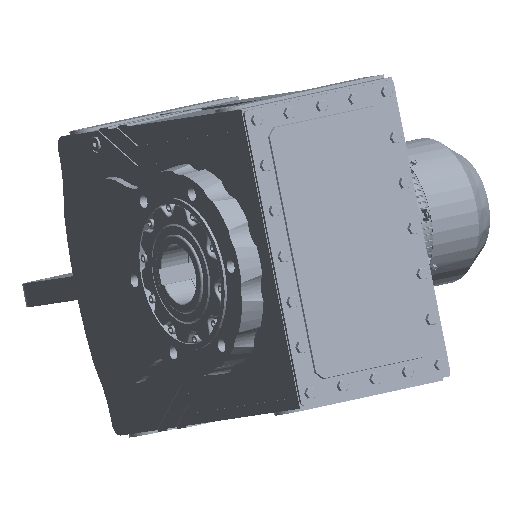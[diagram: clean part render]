
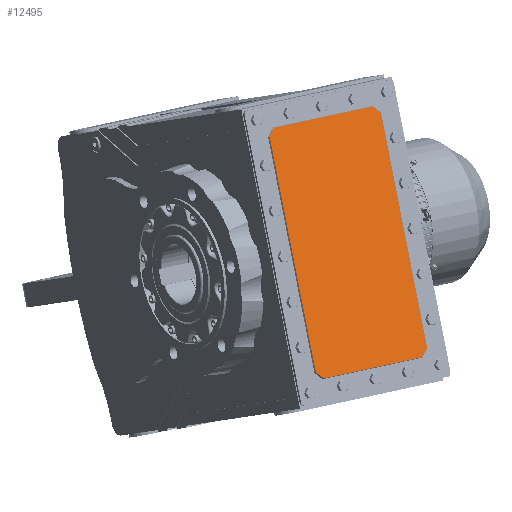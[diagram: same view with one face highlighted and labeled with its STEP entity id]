
A CAD part, isometric view. The second image highlights one B-rep face of the part: STEP entity #12495.
In plain terms, the highlighted planar face has unit normal (-0.068, -0.833, 0.55) as drawn and (0, -1, 0) by its records, which use the part's own axes.
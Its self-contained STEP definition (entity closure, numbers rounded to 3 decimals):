
#1896 = EDGE_LOOP ( 'NONE', ( #298423, #298545, #298532, #298482, #298527, #298371, #298452, #298395 ) ) ;
#12495 = ADVANCED_FACE ( 'NONE', ( #288137 ), #293629, .T. ) ;
#26666 = AXIS2_PLACEMENT_3D ( 'NONE', #293624, #293617, #293639 ) ;
#88282 = DIRECTION ( 'NONE',  ( 0.707, 0., -0.707 ) ) ;
#88292 = CARTESIAN_POINT ( 'NONE',  ( 178.432, -195., -71.318 ) ) ;
#123537 = EDGE_CURVE ( 'NONE', #283986, #283999, #132237, .T. ) ;
#123589 = EDGE_CURVE ( 'NONE', #283941, #283986, #132438, .T. ) ;
#123610 = EDGE_CURVE ( 'NONE', #283909, #283922, #132662, .T. ) ;
#123635 = EDGE_CURVE ( 'NONE', #283999, #283964, #132643, .T. ) ;
#123637 = EDGE_CURVE ( 'NONE', #283964, #283909, #132550, .T. ) ;
#123662 = EDGE_CURVE ( 'NONE', #283922, #283996, #132859, .T. ) ;
#123665 = EDGE_CURVE ( 'NONE', #283996, #284012, #132841, .T. ) ;
#123689 = EDGE_CURVE ( 'NONE', #284012, #283941, #132882, .T. ) ;
#132237 = LINE ( 'NONE', #138468, #132462 ) ;
#132438 = LINE ( 'NONE', #138683, #132445 ) ;
#132445 = VECTOR ( 'NONE', #138669, 1000. ) ;
#132462 = VECTOR ( 'NONE', #138440, 1000. ) ;
#132550 = LINE ( 'NONE', #138882, #132668 ) ;
#132643 = LINE ( 'NONE', #138868, #132647 ) ;
#132647 = VECTOR ( 'NONE', #138907, 1000. ) ;
#132662 = LINE ( 'NONE', #138629, #132713 ) ;
#132668 = VECTOR ( 'NONE', #138862, 1000. ) ;
#132713 = VECTOR ( 'NONE', #138702, 1000. ) ;
#132815 = VECTOR ( 'NONE', #139102, 1000. ) ;
#132841 = LINE ( 'NONE', #139131, #132815 ) ;
#132859 = LINE ( 'NONE', #138998, #132899 ) ;
#132882 = LINE ( 'NONE', #88292, #132965 ) ;
#132899 = VECTOR ( 'NONE', #139123, 1000. ) ;
#132965 = VECTOR ( 'NONE', #88282, 1000. ) ;
#138440 = DIRECTION ( 'NONE',  ( -0.707, 0., -0.707 ) ) ;
#138468 = CARTESIAN_POINT ( 'NONE',  ( 190.432, -195., -262.182 ) ) ;
#138629 = CARTESIAN_POINT ( 'NONE',  ( -190.196, -195., -82.75 ) ) ;
#138669 = DIRECTION ( 'NONE',  ( 0., 0., -1. ) ) ;
#138683 = CARTESIAN_POINT ( 'NONE',  ( 190.196, -195., -82.75 ) ) ;
#138702 = DIRECTION ( 'NONE',  ( 0., 0., 1. ) ) ;
#138862 = DIRECTION ( 'NONE',  ( -0.707, 0., 0.707 ) ) ;
#138868 = CARTESIAN_POINT ( 'NONE',  ( -179., -195., -273.946 ) ) ;
#138882 = CARTESIAN_POINT ( 'NONE',  ( -190.432, -195., -262.182 ) ) ;
#138907 = DIRECTION ( 'NONE',  ( -1., 0., 0. ) ) ;
#138998 = CARTESIAN_POINT ( 'NONE',  ( -178.432, -195., -71.318 ) ) ;
#139102 = DIRECTION ( 'NONE',  ( 1., 0., 0. ) ) ;
#139123 = DIRECTION ( 'NONE',  ( 0.707, 0., 0.707 ) ) ;
#139131 = CARTESIAN_POINT ( 'NONE',  ( -179., -195., -71.554 ) ) ;
#269007 = CARTESIAN_POINT ( 'NONE',  ( -190.196, -195., -83.083 ) ) ;
#269089 = CARTESIAN_POINT ( 'NONE',  ( -190.196, -195., -262.417 ) ) ;
#269252 = CARTESIAN_POINT ( 'NONE',  ( 190.196, -195., -83.083 ) ) ;
#269818 = CARTESIAN_POINT ( 'NONE',  ( -178.667, -195., -273.946 ) ) ;
#270098 = CARTESIAN_POINT ( 'NONE',  ( -178.667, -195., -71.554 ) ) ;
#270107 = CARTESIAN_POINT ( 'NONE',  ( 178.667, -195., -273.946 ) ) ;
#270245 = CARTESIAN_POINT ( 'NONE',  ( 190.196, -195., -262.417 ) ) ;
#270480 = CARTESIAN_POINT ( 'NONE',  ( 178.667, -195., -71.554 ) ) ;
#283909 = VERTEX_POINT ( 'NONE', #269089 ) ;
#283922 = VERTEX_POINT ( 'NONE', #269007 ) ;
#283941 = VERTEX_POINT ( 'NONE', #269252 ) ;
#283964 = VERTEX_POINT ( 'NONE', #269818 ) ;
#283986 = VERTEX_POINT ( 'NONE', #270245 ) ;
#283996 = VERTEX_POINT ( 'NONE', #270098 ) ;
#283999 = VERTEX_POINT ( 'NONE', #270107 ) ;
#284012 = VERTEX_POINT ( 'NONE', #270480 ) ;
#288137 = FACE_OUTER_BOUND ( 'NONE', #1896, .T. ) ;
#293617 = DIRECTION ( 'NONE',  ( 0., -1., 0. ) ) ;
#293624 = CARTESIAN_POINT ( 'NONE',  ( 0., -195., 0. ) ) ;
#293629 = PLANE ( 'NONE',  #26666 ) ;
#293639 = DIRECTION ( 'NONE',  ( 0., 0., -1. ) ) ;
#298371 = ORIENTED_EDGE ( 'NONE', *, *, #123637, .F. ) ;
#298395 = ORIENTED_EDGE ( 'NONE', *, *, #123537, .F. ) ;
#298423 = ORIENTED_EDGE ( 'NONE', *, *, #123589, .F. ) ;
#298452 = ORIENTED_EDGE ( 'NONE', *, *, #123635, .F. ) ;
#298482 = ORIENTED_EDGE ( 'NONE', *, *, #123662, .F. ) ;
#298527 = ORIENTED_EDGE ( 'NONE', *, *, #123610, .F. ) ;
#298532 = ORIENTED_EDGE ( 'NONE', *, *, #123665, .F. ) ;
#298545 = ORIENTED_EDGE ( 'NONE', *, *, #123689, .F. ) ;
